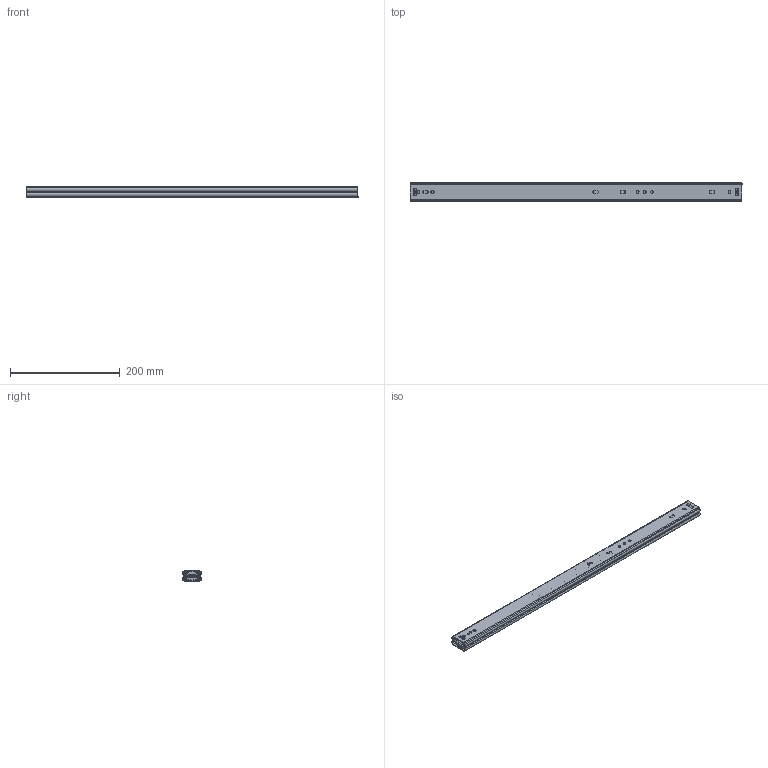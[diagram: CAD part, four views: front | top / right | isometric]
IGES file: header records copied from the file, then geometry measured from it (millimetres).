
Global section: file name: DR_L6-600; native system: Autodesk Inventor 2015; preprocessor: unknown; author: Administrator; date: 20171011.105627; units: millimetre
Bounding box: 606 x 35.23 x 19.14 mm (x, y, z)
Volume: 147635.1 mm3; surface area: 223582.6 mm2
Topology: 8 solids, 8 shells, 606 faces, 1506 edges, 1044 vertices
Faces by surface type: bspline 606
